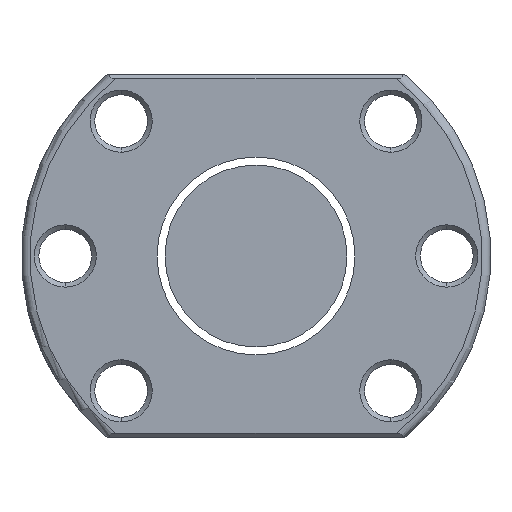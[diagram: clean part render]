
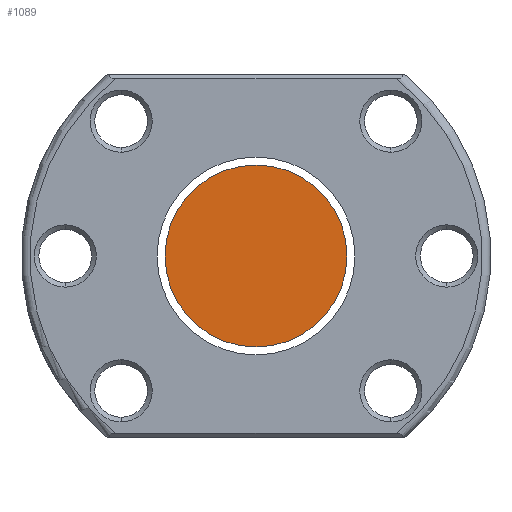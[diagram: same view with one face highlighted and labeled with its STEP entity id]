
A CAD part, left-side view. The second image highlights one B-rep face of the part: STEP entity #1089.
In plain terms, the highlighted planar face has unit normal (-1, 0, 0).
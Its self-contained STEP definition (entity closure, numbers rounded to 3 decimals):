
#341 = CARTESIAN_POINT ( 'NONE',  ( -300., 0., 0. ) ) ;
#358 = CIRCLE ( 'NONE', #3487, 15.5 ) ;
#956 = VERTEX_POINT ( 'NONE', #3430 ) ;
#1023 = CARTESIAN_POINT ( 'NONE',  ( -300., 0., 0. ) ) ;
#1089 = ADVANCED_FACE ( 'NONE', ( #3986 ), #3590, .T. ) ;
#1579 = DIRECTION ( 'NONE',  ( 1., 0., 0. ) ) ;
#2317 = CARTESIAN_POINT ( 'NONE',  ( -300., 0., 15.5 ) ) ;
#2519 = ORIENTED_EDGE ( 'NONE', *, *, #2596, .F. ) ;
#2596 = EDGE_CURVE ( 'NONE', #956, #3105, #358, .T. ) ;
#2728 = DIRECTION ( 'NONE',  ( -1., 0., 0. ) ) ;
#2733 = AXIS2_PLACEMENT_3D ( 'NONE', #341, #1579, #3284 ) ;
#2793 = DIRECTION ( 'NONE',  ( 0., 0., -1. ) ) ;
#3105 = VERTEX_POINT ( 'NONE', #2317 ) ;
#3212 = AXIS2_PLACEMENT_3D ( 'NONE', #1023, #2728, #4437 ) ;
#3284 = DIRECTION ( 'NONE',  ( 0., 0., -1. ) ) ;
#3430 = CARTESIAN_POINT ( 'NONE',  ( -300., 0., -15.5 ) ) ;
#3487 = AXIS2_PLACEMENT_3D ( 'NONE', #5377, #3576, #2793 ) ;
#3576 = DIRECTION ( 'NONE',  ( 1., 0., 0. ) ) ;
#3590 = PLANE ( 'NONE',  #3212 ) ;
#3986 = FACE_OUTER_BOUND ( 'NONE', #4896, .T. ) ;
#4381 = ORIENTED_EDGE ( 'NONE', *, *, #5311, .F. ) ;
#4437 = DIRECTION ( 'NONE',  ( 0., 0., 1. ) ) ;
#4522 = CIRCLE ( 'NONE', #2733, 15.5 ) ;
#4896 = EDGE_LOOP ( 'NONE', ( #2519, #4381 ) ) ;
#5311 = EDGE_CURVE ( 'NONE', #3105, #956, #4522, .T. ) ;
#5377 = CARTESIAN_POINT ( 'NONE',  ( -300., 0., 0. ) ) ;
